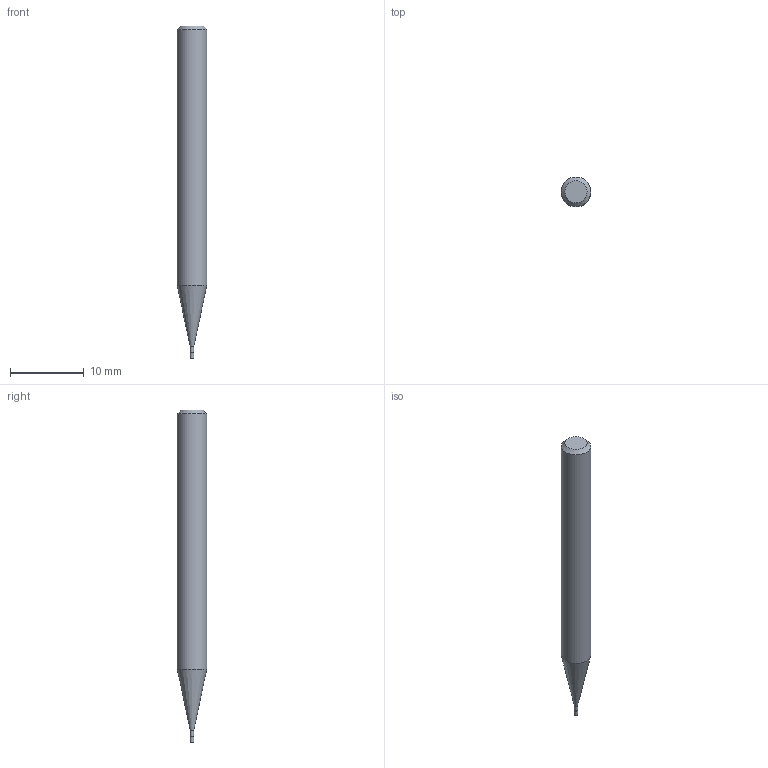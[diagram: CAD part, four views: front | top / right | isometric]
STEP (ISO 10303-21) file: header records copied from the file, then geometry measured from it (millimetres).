
FILE_DESCRIPTION((''),'2;1');
FILE_NAME('C:\Users\nsx150\AppData\Local\Temp\Mastercam 2021\17T8Q8S9EB\TEMP.step','2021-04-21T14:24:17',(''),(''),'STEP Write','Mastercam 2021 ... CNC Software, Inc.','');
FILE_SCHEMA(('AUTOMOTIVE_DESIGN'));
Length unit declared in the file: millimetre
Products named in the file (1): None
Bounding box: 4 x 4 x 45 mm (x, y, z)
Volume: 480.2 mm3; surface area: 513 mm2
Topology: 2 solids, 2 shells, 9 faces, 12 edges, 7 vertices
Faces by surface type: plane 4, cylinder 3, cone 2
Full cylindrical faces by diameter (mm): 0.46 x1, 0.5 x1, 4 x1
Entity records: 211 total; most frequent: DIRECTION 36, CARTESIAN_POINT 25, AXIS2_PLACEMENT_3D 18, ORIENTED_EDGE 14, EDGE_LOOP 14, STYLED_ITEM 12, ADVANCED_FACE 9, FACE_BOUND 8
